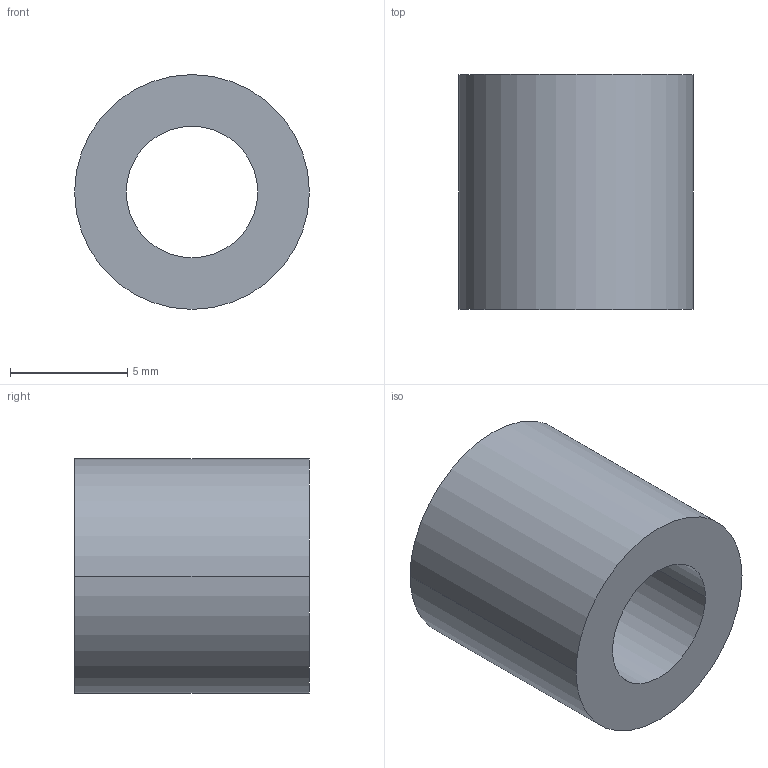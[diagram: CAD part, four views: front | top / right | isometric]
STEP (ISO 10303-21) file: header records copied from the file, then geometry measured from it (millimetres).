
FILE_DESCRIPTION (( 'STEP AP203' ), '1' );
FILE_NAME ('30800.WPP10D5.6.step', '2019-01-23T22:23:24', ( '' ), ( '' ), 'SwSTEP 2.0', 'SolidWorks 2017', '' );
FILE_SCHEMA (( 'CONFIG_CONTROL_DESIGN' ));
Length unit declared in the file: millimetre
Products named in the file (1): 30800.WPP10D5.6
Bounding box: 10 x 10 x 10 mm (x, y, z)
Volume: 529.6 mm3; surface area: 587.6 mm2
Topology: 1 solids, 1 shells, 8 faces, 16 edges, 10 vertices
Faces by surface type: cylinder 4, torus 2, plane 2
Entity records: 297 total; most frequent: DIRECTION 46, CARTESIAN_POINT 35, ORIENTED_EDGE 32, AXIS2_PLACEMENT_3D 21, EDGE_CURVE 16, CIRCLE 12, VERTEX_POINT 10, EDGE_LOOP 10
